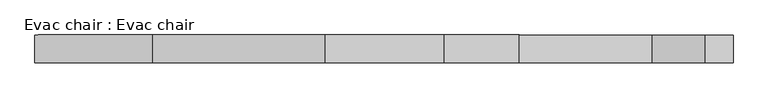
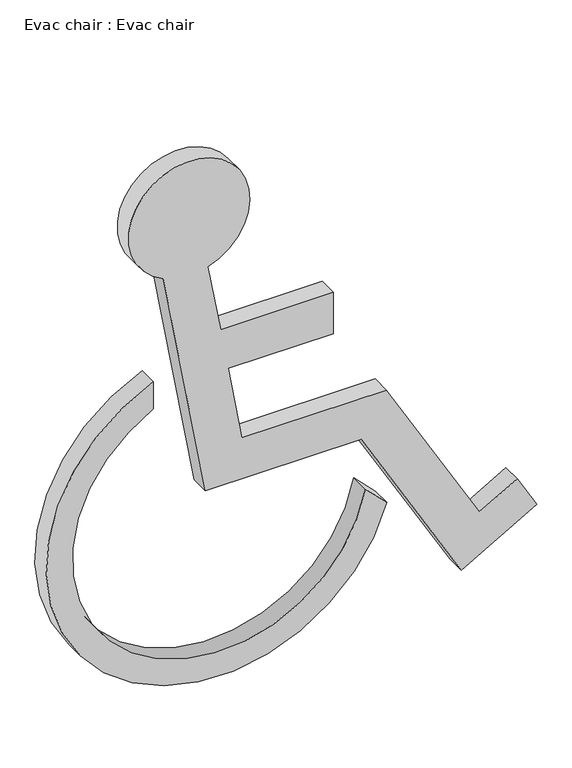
"""IFC4 building model written with IfcOpenShell, lengths in millimetres: proxy geometry, Evac chair : Evac chair."""

from ifc_helpers import new_model, si_unit, point, frame, frame_2d, origin, place, context, project, spatial, polyline, circle_curve, trimmed, segment, composite_curve, outline, extrude, source, transform, mapped, element, save


def evac_chair_evac_chair_21751325(model_context):
    return source(origin(), model_context, "Body", "SweptSolid", [
        extrude(outline(composite_curve([segment(polyline([(190.7326107, 431.2446986), (562.0036647, 216.8912557), (562.0036647, -115.4389766), (742.0036647, -147.1778331), (742.0036647, 95.1894688), (842.0036647, 95.1894688), (842.0036647, -164.8105312), (1005.8854063, -193.7073039)]), True, "CONTINUOUS"), segment(trimmed(circle_curve(frame_2d((1138.4115174, -237.0762177)), 139.4418618), [point((1005.8854063, -193.7073039))], [point((1012.2012271, -296.3636147))], False, "CARTESIAN"), True, "CONTINUOUS"), segment(polyline([(1012.2012271, -296.3636147), (462.0036647, -199.3489397), (462.0036647, 159.1562287), (62.7903244, 389.6421582), (162.7903244, 562.847239), (240.7326107, 517.847239), (190.7326107, 431.2446986)]), True, "CONTINUOUS")], self_intersect=False)), frame((0.0, -45.0, 0.0), z_axis=(0.0, 1.0, 0.0), x_axis=(0.0, 0.0, 1.0)), (0.0, 0.0, 1.0), 45.0),
        extrude(outline(composite_curve([segment(polyline([(288.366183, 217.8524682), (338.1464095, 168.0722417)]), True, "CONTINUOUS"), segment(trimmed(circle_curve(frame_2d((400.0, -166.2541458)), 340.0), [point((338.1464095, 168.0722417))], [point((703.6011891, -319.31073))], True, "CARTESIAN"), True, "CONTINUOUS"), segment(polyline([(703.6011891, -319.31073), (769.5587667, -319.31073)]), True, "CONTINUOUS"), segment(trimmed(circle_curve(frame_2d((400.0, -166.2541458)), 400.0), [point((769.5587667, -319.31073))], [point((288.366183, 217.8524682))], False, "CARTESIAN"), True, "CONTINUOUS")], self_intersect=False)), frame((0.0, -45.0, 0.0), z_axis=(0.0, 1.0, 0.0), x_axis=(0.0, 0.0, 1.0)), (0.0, 0.0, 1.0), 45.0),
    ])


if __name__ == "__main__":
    model = new_model("IFC4")
    model_context = context("Model", 3, world=origin())
    ifc_project = project(units=[si_unit("LENGTHUNIT", "METRE", prefix="MILLI")], contexts=[model_context])
    site = spatial("IfcSite", under=ifc_project)
    building = spatial("IfcBuilding", under=site)
    placement = place(None, origin())
    evac_chair_evac_chair_shape = evac_chair_evac_chair_21751325(model_context)
    element("IfcBuildingElementProxy", 1, Name="Evac chair : Evac chair", ObjectType="Evac chair : Evac chair", at=placement, inside=building, context=model_context, shape_type="MappedRepresentation", body=[
        mapped(evac_chair_evac_chair_shape, transform((0.0, 0.0, 0.0), x_axis=(1.0, 0.0, 0.0), y_axis=(0.0, 1.0, 0.0), z_axis=(0.0, 0.0, 1.0))),
    ])
    save(model, "model.ifc")
